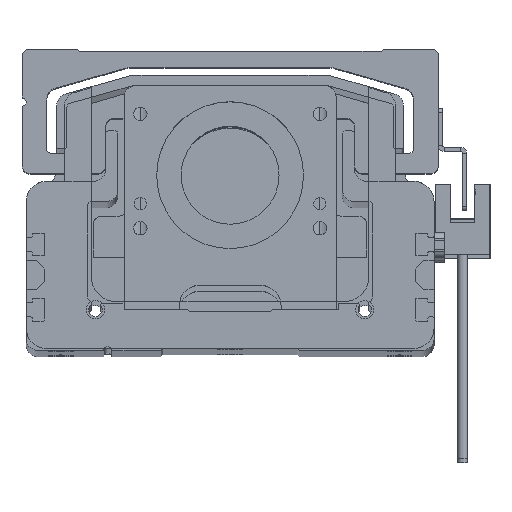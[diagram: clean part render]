
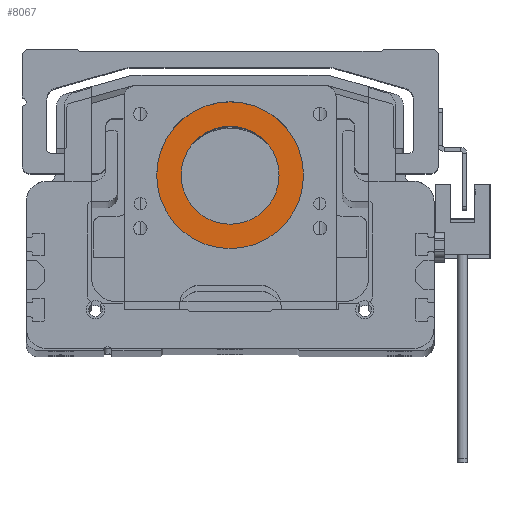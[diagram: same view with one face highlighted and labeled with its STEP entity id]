
A CAD part, top view. The second image highlights one B-rep face of the part: STEP entity #8067.
In plain terms, the highlighted planar face has unit normal (0, 0, 1).
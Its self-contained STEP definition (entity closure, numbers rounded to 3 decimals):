
#519 = DIRECTION ( 'NONE',  ( 1., 0., 0. ) ) ;
#527 = CARTESIAN_POINT ( 'NONE',  ( 0., 33., 2.5 ) ) ;
#569 = DIRECTION ( 'NONE',  ( 0., 0., 1. ) ) ;
#1650 = DIRECTION ( 'NONE',  ( 1., 0., 0. ) ) ;
#1686 = DIRECTION ( 'NONE',  ( 0., 0., 1. ) ) ;
#1734 = CARTESIAN_POINT ( 'NONE',  ( 0., 33., 2.5 ) ) ;
#1754 = PLANE ( 'NONE',  #21905 ) ;
#3056 = VERTEX_POINT ( 'NONE', #30158 ) ;
#4831 = EDGE_CURVE ( 'NONE', #3056, #9864, #19843, .T. ) ;
#5364 = FACE_BOUND ( 'NONE', #20416, .T. ) ;
#6237 = DIRECTION ( 'NONE',  ( 0., 0., 1. ) ) ;
#6952 = AXIS2_PLACEMENT_3D ( 'NONE', #11441, #28568, #13983 ) ;
#8067 = ADVANCED_FACE ( 'NONE', ( #11478, #5364 ), #1754, .T. ) ;
#9864 = VERTEX_POINT ( 'NONE', #30563 ) ;
#10872 = ORIENTED_EDGE ( 'NONE', *, *, #23619, .T. ) ;
#11441 = CARTESIAN_POINT ( 'NONE',  ( 0., 33., 2.5 ) ) ;
#11450 = AXIS2_PLACEMENT_3D ( 'NONE', #527, #569, #519 ) ;
#11478 = FACE_OUTER_BOUND ( 'NONE', #23803, .T. ) ;
#11959 = CIRCLE ( 'NONE', #6952, 18. ) ;
#12000 = VERTEX_POINT ( 'NONE', #31766 ) ;
#12900 = ORIENTED_EDGE ( 'NONE', *, *, #13761, .F. ) ;
#13143 = ORIENTED_EDGE ( 'NONE', *, *, #24974, .T. ) ;
#13761 = EDGE_CURVE ( 'NONE', #9864, #3056, #29899, .T. ) ;
#13983 = DIRECTION ( 'NONE',  ( 1., 0., 0. ) ) ;
#15703 = AXIS2_PLACEMENT_3D ( 'NONE', #21325, #6237, #23734 ) ;
#17302 = CIRCLE ( 'NONE', #15703, 18. ) ;
#17759 = ORIENTED_EDGE ( 'NONE', *, *, #4831, .F. ) ;
#19540 = AXIS2_PLACEMENT_3D ( 'NONE', #28519, #28473, #28414 ) ;
#19843 = CIRCLE ( 'NONE', #11450, 12. ) ;
#20416 = EDGE_LOOP ( 'NONE', ( #17759, #12900 ) ) ;
#21325 = CARTESIAN_POINT ( 'NONE',  ( 0., 33., 2.5 ) ) ;
#21905 = AXIS2_PLACEMENT_3D ( 'NONE', #1734, #1686, #1650 ) ;
#22179 = VERTEX_POINT ( 'NONE', #26761 ) ;
#23619 = EDGE_CURVE ( 'NONE', #12000, #22179, #11959, .T. ) ;
#23734 = DIRECTION ( 'NONE',  ( 1., 0., 0. ) ) ;
#23803 = EDGE_LOOP ( 'NONE', ( #13143, #10872 ) ) ;
#24974 = EDGE_CURVE ( 'NONE', #22179, #12000, #17302, .T. ) ;
#26761 = CARTESIAN_POINT ( 'NONE',  ( 18., 33., 2.5 ) ) ;
#28414 = DIRECTION ( 'NONE',  ( 1., 0., 0. ) ) ;
#28473 = DIRECTION ( 'NONE',  ( 0., 0., 1. ) ) ;
#28519 = CARTESIAN_POINT ( 'NONE',  ( 0., 33., 2.5 ) ) ;
#28568 = DIRECTION ( 'NONE',  ( 0., 0., 1. ) ) ;
#29899 = CIRCLE ( 'NONE', #19540, 12. ) ;
#30158 = CARTESIAN_POINT ( 'NONE',  ( 12., 33., 2.5 ) ) ;
#30563 = CARTESIAN_POINT ( 'NONE',  ( -12., 33., 2.5 ) ) ;
#31766 = CARTESIAN_POINT ( 'NONE',  ( -18., 33., 2.5 ) ) ;
